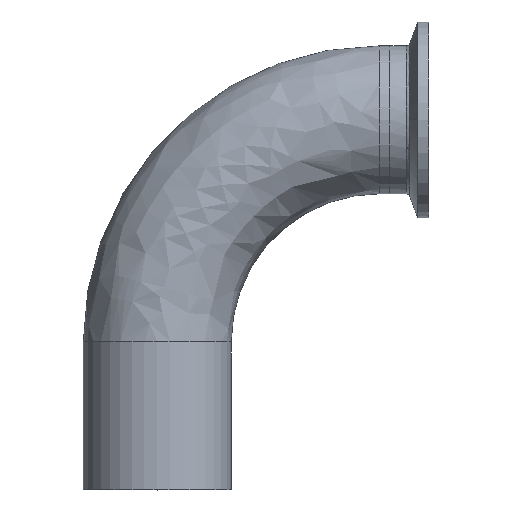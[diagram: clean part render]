
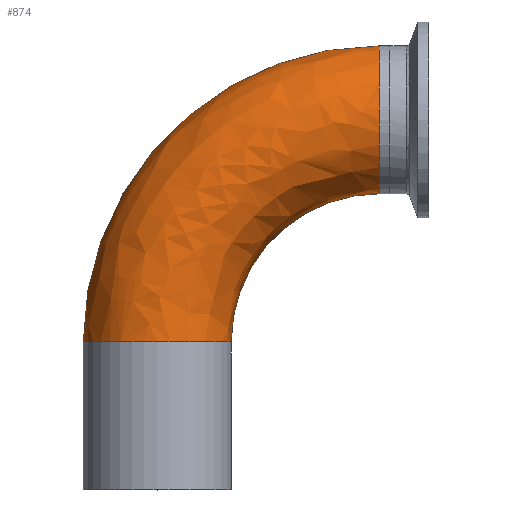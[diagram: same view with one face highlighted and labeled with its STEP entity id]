
A CAD part, top view. The second image highlights one B-rep face of the part: STEP entity #874.
In plain terms, the highlighted free-form (B-spline) face has degree [3, 3] with [4, 4] control points.
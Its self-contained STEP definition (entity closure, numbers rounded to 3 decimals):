
#17 = CARTESIAN_POINT ( 'NONE',  ( 57.2, 76.25, 38.1 ) ) ;
#22 = CIRCLE ( 'NONE', #1544, 38.15 ) ;
#31 = CARTESIAN_POINT ( 'NONE',  ( 34.852, 76.25, 38.1 ) ) ;
#67 = CARTESIAN_POINT ( 'NONE',  ( 19.05, 60.448, 38.1 ) ) ;
#74 = CARTESIAN_POINT ( 'NONE',  ( 19.05, 38.1, 38.1 ) ) ;
#76 = CARTESIAN_POINT ( 'NONE',  ( 57.2, 114.35, 38.1 ) ) ;
#82 = CARTESIAN_POINT ( 'NONE',  ( 12.534, 114.35, 38.1 ) ) ;
#88 = CARTESIAN_POINT ( 'NONE',  ( -19.05, 82.766, 38.1 ) ) ;
#99 = CARTESIAN_POINT ( 'NONE',  ( -19.05, 38.1, 38.1 ) ) ;
#108 = CARTESIAN_POINT ( 'NONE',  ( 57.2, 114.35, 0. ) ) ;
#124 = EDGE_CURVE ( 'NONE', #967, #1024, #1031, .T. ) ;
#219 = CARTESIAN_POINT ( 'NONE',  ( -19.05, 38.1, 0. ) ) ;
#225 = CARTESIAN_POINT ( 'NONE',  ( 12.534, 114.35, 0. ) ) ;
#246 = CARTESIAN_POINT ( 'NONE',  ( -19.05, 82.766, 0. ) ) ;
#264 = CARTESIAN_POINT ( 'NONE',  ( -19.05, 38.1, 0. ) ) ;
#293 = ORIENTED_EDGE ( 'NONE', *, *, #842, .T. ) ;
#380 = AXIS2_PLACEMENT_3D ( 'NONE', #1769, #887, #1901 ) ;
#415 = ORIENTED_EDGE ( 'NONE', *, *, #1733, .T. ) ;
#443 = CARTESIAN_POINT ( 'NONE',  ( 57.2, 38.1, 0. ) ) ;
#453 = ORIENTED_EDGE ( 'NONE', *, *, #124, .T. ) ;
#484 = DIRECTION ( 'NONE',  ( -1., 0., 0. ) ) ;
#559 = CARTESIAN_POINT ( 'NONE',  ( 57.2, 76.25, 0. ) ) ;
#613 = VERTEX_POINT ( 'NONE', #1827 ) ;
#692 = AXIS2_PLACEMENT_3D ( 'NONE', #1889, #1884, #1874 ) ;
#751 = EDGE_LOOP ( 'NONE', ( #415, #293, #453, #1658 ) ) ;
#780 = CIRCLE ( 'NONE', #380, 19.05 ) ;
#842 = EDGE_CURVE ( 'NONE', #613, #967, #22, .T. ) ;
#874 = ADVANCED_FACE ( 'NONE', ( #1919 ), #1885, .T. ) ;
#887 = DIRECTION ( 'NONE',  ( 0., 1., 0. ) ) ;
#904 = CARTESIAN_POINT ( 'NONE',  ( 57.2, 76.25, 0. ) ) ;
#933 = CARTESIAN_POINT ( 'NONE',  ( 34.852, 76.25, 0. ) ) ;
#946 = CARTESIAN_POINT ( 'NONE',  ( 19.05, 60.448, 0. ) ) ;
#955 = CARTESIAN_POINT ( 'NONE',  ( 19.05, 38.1, 0. ) ) ;
#967 = VERTEX_POINT ( 'NONE', #559 ) ;
#1008 = DIRECTION ( 'NONE',  ( 0., 0., -1. ) ) ;
#1024 = VERTEX_POINT ( 'NONE', #1731 ) ;
#1031 = CIRCLE ( 'NONE', #692, 19.05 ) ;
#1102 = VERTEX_POINT ( 'NONE', #219 ) ;
#1170 = EDGE_CURVE ( 'NONE', #1102, #1024, #1717, .T. ) ;
#1544 = AXIS2_PLACEMENT_3D ( 'NONE', #443, #1913, #1907 ) ;
#1658 = ORIENTED_EDGE ( 'NONE', *, *, #1170, .F. ) ;
#1717 = CIRCLE ( 'NONE', #1781, 76.25 ) ;
#1731 = CARTESIAN_POINT ( 'NONE',  ( 57.2, 114.35, 0. ) ) ;
#1733 = EDGE_CURVE ( 'NONE', #1102, #613, #780, .T. ) ;
#1769 = CARTESIAN_POINT ( 'NONE',  ( 0., 38.1, 0. ) ) ;
#1781 = AXIS2_PLACEMENT_3D ( 'NONE', #1896, #1008, #484 ) ;
#1827 = CARTESIAN_POINT ( 'NONE',  ( 19.05, 38.1, 0. ) ) ;
#1874 = DIRECTION ( 'NONE',  ( 0., 1., 0. ) ) ;
#1884 = DIRECTION ( 'NONE',  ( -1., 0., 0. ) ) ;
#1885 =( BOUNDED_SURFACE ( )  B_SPLINE_SURFACE ( 3, 3, ( 
 ( #264, #246, #225, #108 ),
 ( #99, #88, #82, #76 ),
 ( #74, #67, #31, #17 ),
 ( #955, #946, #933, #904 ) ),
 .UNSPECIFIED., .F., .F., .F. ) 
 B_SPLINE_SURFACE_WITH_KNOTS ( ( 4, 4 ),
 ( 4, 4 ),
 ( 0., 1. ),
 ( 0., 1. ),
 .UNSPECIFIED. ) 
 GEOMETRIC_REPRESENTATION_ITEM ( )  RATIONAL_B_SPLINE_SURFACE ( (
 ( 1., 0.805, 0.805, 1.),
 ( 0.333, 0.268, 0.268, 0.333),
 ( 0.333, 0.268, 0.268, 0.333),
 ( 1., 0.805, 0.805, 1.) ) ) 
 REPRESENTATION_ITEM ( '' )  SURFACE ( )  );
#1889 = CARTESIAN_POINT ( 'NONE',  ( 57.2, 95.3, 0. ) ) ;
#1896 = CARTESIAN_POINT ( 'NONE',  ( 57.2, 38.1, 0. ) ) ;
#1901 = DIRECTION ( 'NONE',  ( -1., 0., 0. ) ) ;
#1907 = DIRECTION ( 'NONE',  ( -1., 0., 0. ) ) ;
#1913 = DIRECTION ( 'NONE',  ( 0., 0., -1. ) ) ;
#1919 = FACE_OUTER_BOUND ( 'NONE', #751, .T. ) ;
